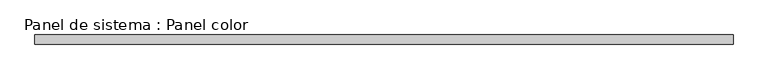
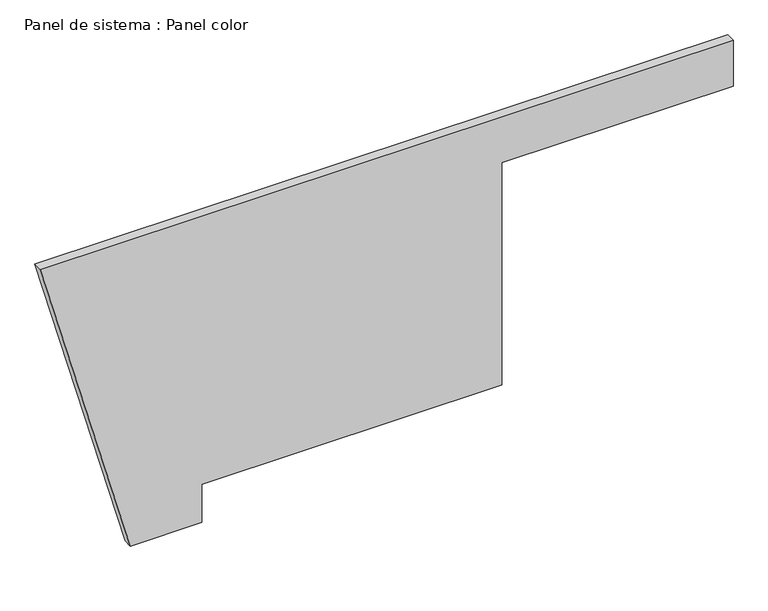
"""IFC4 building model written with IfcOpenShell, lengths in millimetres: plate geometry, Panel de sistema : Panel color."""

from ifc_helpers import new_model, si_unit, frame, origin, place, context, project, spatial, polyline, outline, extrude, source, transform, mapped, element, save


def panel_de_sistema_panel_color_5e84dbe2(model_context):
    return source(origin(), model_context, "Body", "SweptSolid", [
        extrude(outline(polyline([(0.0, -2836.5543575), (0.0, -2047.7781766), (450.0, -2047.7781766), (450.0, 1273.961385), (3050.0, 1273.961385), (3050.0, 3833.961385), (3590.0, 3833.961385), (3590.0, -3833.961385), (0.0, -2836.5543575)])), frame((0.0, -50.0, 0.0), z_axis=(0.0, 1.0, 0.0), x_axis=(0.0, 0.0, 1.0)), (0.0, 0.0, 1.0), 100.0),
    ])


if __name__ == "__main__":
    model = new_model("IFC4")
    model_context = context("Model", 3, world=origin())
    ifc_project = project(units=[si_unit("LENGTHUNIT", "METRE", prefix="MILLI")], contexts=[model_context])
    site = spatial("IfcSite", under=ifc_project)
    building = spatial("IfcBuilding", under=site)
    placement = place(None, origin())
    panel_de_sistema_panel_color_shape = panel_de_sistema_panel_color_5e84dbe2(model_context)
    element("IfcPlate", 1, ObjectType="Panel de sistema : Panel color", at=placement, inside=building, context=model_context, shape_type="MappedRepresentation", body=[
        mapped(panel_de_sistema_panel_color_shape, transform((0.0, 0.0, 0.0), x_axis=(1.0, 0.0, 0.0), y_axis=(0.0, 1.0, 0.0), z_axis=(0.0, 0.0, 1.0))),
    ])
    save(model, "model.ifc")
